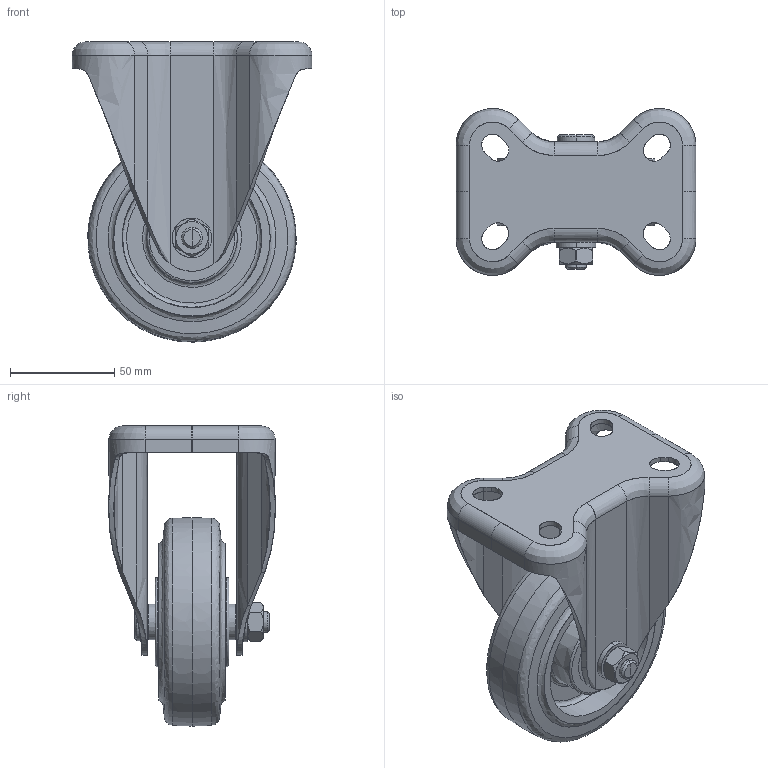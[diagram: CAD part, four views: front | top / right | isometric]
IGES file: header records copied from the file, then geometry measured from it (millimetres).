
Start section: JAMA-IS VERSION  1.0
Global section: file name: E:\tools-models\その他メーカー2\INOAC車輪\6月\TR-100AWK\TR-100AWK-ALL.igs; native system: CAM-TOOL; preprocessor: C3out Version 11.1.1.50212 (2015/02/12); author: NONE; organization: NONE; date: 210608.095606; units: millimetre
Bounding box: 115 x 80 x 143.99 mm (x, y, z)
Surface area: 108815.9 mm2 (no closed solid volume)
Topology: 0 solids, 0 shells, 221 faces, 2222 edges, 2206 vertices
Faces by surface type: bspline 221
